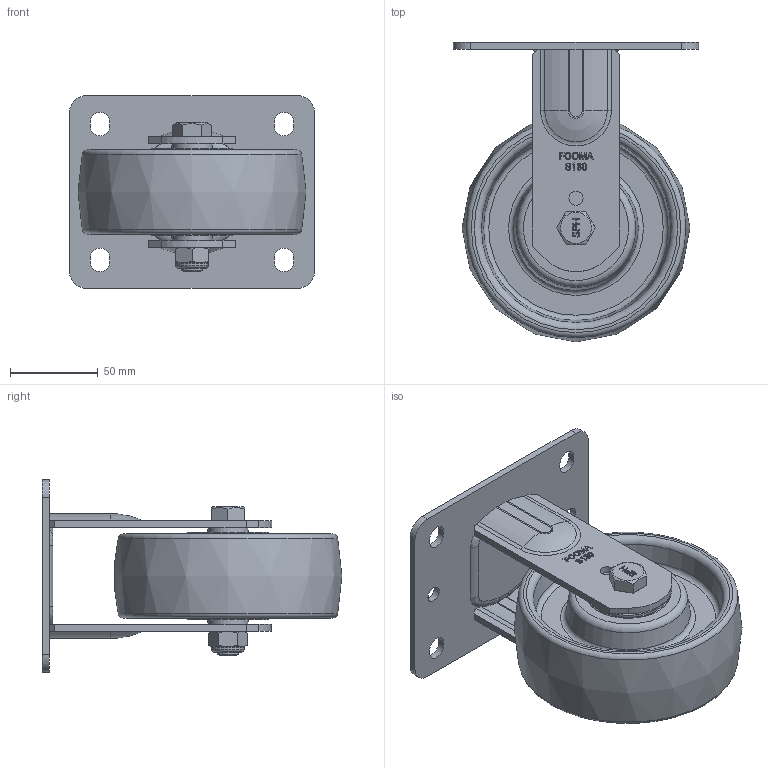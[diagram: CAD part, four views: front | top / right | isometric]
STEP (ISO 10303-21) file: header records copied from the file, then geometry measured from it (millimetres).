
FILE_DESCRIPTION(/* description */ (''),/* implementation_level */ '2;1');
FILE_NAME(/* name */ '\\192.168.10.38\지덕공유\1.기술연구소\2.연구개발 진행중\124.SPH-Series_중하중_2025.02.11\1.도면\2. 3D\홈페이지용\SPH-130-ARF-NYD-PEU.stp',/* time_stamp */ '2026-05-19T07:50:36+09:00',/* author */ ('admin'),/* organization */ ('지덕산업'),/* preprocessor_version */ 'ST-DEVELOPER v18.1',/* originating_system */ 'Autodesk Inventor 2021',/* authorisation */ '');
FILE_SCHEMA (('AUTOMOTIVE_DESIGN { 1 0 10303 214 3 1 1 }'));
Length unit declared in the file: millimetre
Products named in the file (1): SPH-130-ARF-NYD-PEU
Bounding box: 140 x 171 x 110 mm (x, y, z)
Volume: 561537.3 mm3; surface area: 117017.9 mm2
Topology: 1 solids, 1 shells, 1038 faces, 2819 edges, 1869 vertices
Faces by surface type: plane 466, bspline 466, cylinder 55, torus 30, cone 17, sphere 4
Full cylindrical faces by diameter (mm): 8 x2, 9 x2, 12 x1, 18 x1, 18.5 x1, 46.001 x2
Entity records: 33629 total; most frequent: CARTESIAN_POINT 10421, ORIENTED_EDGE 5638, DIRECTION 3245, EDGE_CURVE 2819, VERTEX_POINT 1869, LINE 1647, VECTOR 1647, EDGE_LOOP 1142
